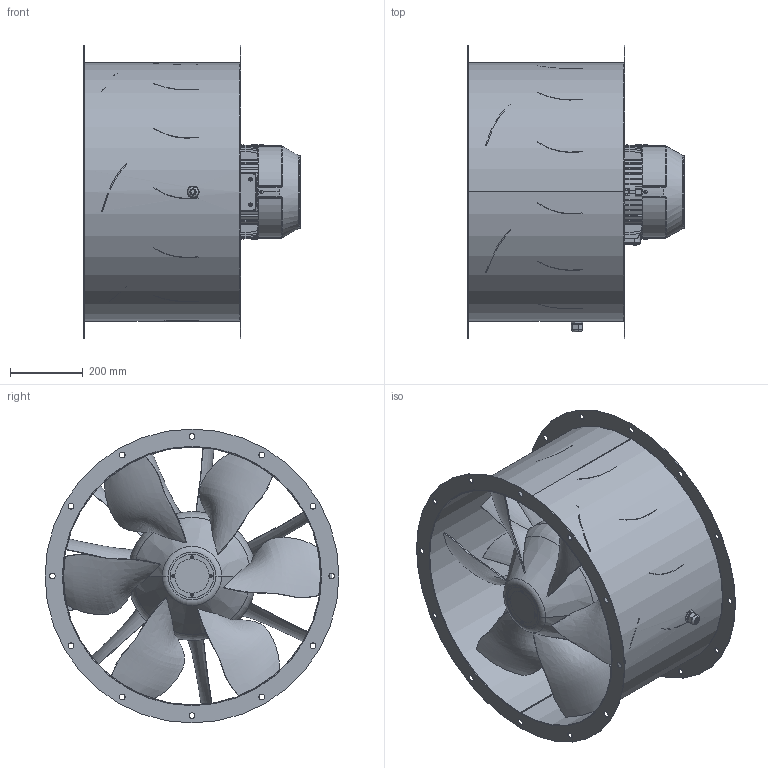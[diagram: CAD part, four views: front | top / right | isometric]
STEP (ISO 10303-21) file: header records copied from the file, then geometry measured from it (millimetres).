
FILE_DESCRIPTION (( 'STEP AP203' ), '1' );
FILE_NAME ('154141-00_AL710D401_step.step', '2020-05-29T11:02:45', ( '' ), ( '' ), 'SwSTEP 2.0', 'SolidWorks 2017', '' );
FILE_SCHEMA (( 'CONFIG_CONTROL_DESIGN' ));
Length unit declared in the file: millimetre
Products named in the file (1): 154141-00_AL710D401_step
Bounding box: 597.5 x 810 x 810 mm (x, y, z)
Surface area: 4851829.2 mm2 (no closed solid volume)
Topology: 0 solids, 67 shells, 1370 faces, 5366 edges, 3912 vertices
Faces by surface type: plane 966, cylinder 252, bspline 96, torus 36, cone 20
Entity records: 522641 total; most frequent: CARTESIAN_POINT 480361, DIRECTION 7880, ORIENTED_EDGE 7735, EDGE_CURVE 5366, VERTEX_POINT 3912, LINE 3894, VECTOR 3894, AXIS2_PLACEMENT_3D 1993
